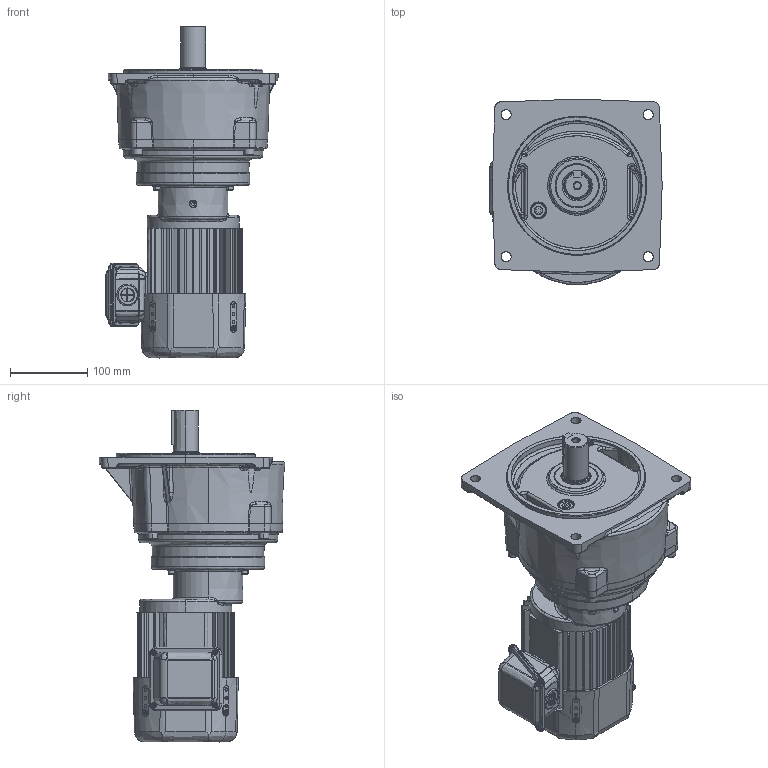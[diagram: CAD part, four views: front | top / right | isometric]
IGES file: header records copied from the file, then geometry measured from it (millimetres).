
Start section: SolidWorks IGES file using analytic representation for surfaces
Global section: file name: \\100.100.100.8\1_共有作業フォルダ\1-5_３Ｄデータ\solidworks\personal-folder\H.Nagayama\SGP1外形\P1(3D)\sldprt(合体)\TMFB2-02-(300~450).IGS; native system: SolidWorks 2018; preprocessor: SolidWorks 2018; author: sigma-giken; date: 200512.103712; units: millimetre
Bounding box: 223 x 240.19 x 429.6 mm (x, y, z)
Surface area: 629206 mm2 (no closed solid volume)
Topology: 0 solids, 0 shells, 1959 faces, 25681 edges, 25644 vertices
Faces by surface type: bspline 1060, revolution 899
